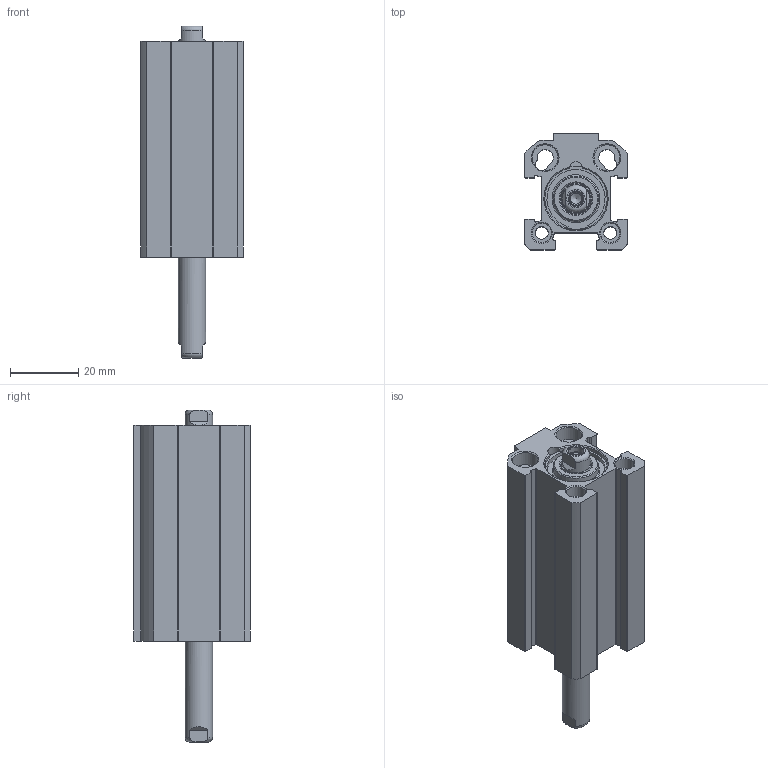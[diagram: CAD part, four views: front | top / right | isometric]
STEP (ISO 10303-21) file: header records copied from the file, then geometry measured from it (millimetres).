
FILE_DESCRIPTION(/* description */ ('Unknown'),/* implementation_level */ '2;1');
FILE_NAME(/* name */ 'FBN 16_25',/* time_stamp */ '2026-04-29T08:54:36+02:00',/* author */ ('Unknown'),/* organization */ ('Unknown'),/* preprocessor_version */ 'ST-DEVELOPER v18.102',/* originating_system */ 'Solid Edge',/* authorisation */ 'Unknown');
FILE_SCHEMA (('AUTOMOTIVE_DESIGN {1 0 10303 214 3 1 1}'));
Length unit declared in the file: millimetre
Products named in the file (5): FBN 16_25; Kolbenstange; Profilrohr; Kit_1; Kit_2
Assembly tree (5 placements, depth 2):
  FBN 16_25
    Kolbenstange  x2
    Profilrohr
    Kit_1
    Kit_2
Bounding box: 30 x 34 x 97 mm (x, y, z)
Volume: 40583.5 mm3; surface area: 24505.3 mm2
Topology: 7 solids, 7 shells, 229 faces, 549 edges, 356 vertices
Faces by surface type: plane 90, cylinder 83, cone 42, torus 14
Full cylindrical faces by diameter (mm): 1.3 x2, 3.242 x4, 3.7 x2, 4.134 x4, 4.25 x2, 5.6 x4, 8 x2, 8.42 x2, 9.2 x2, 11.36 x2, 11.5 x2, 13.2 x2, 16 x3, 17.9 x4, 19 x2
Entity records: 6923 total; most frequent: CARTESIAN_POINT 1107, DIRECTION 1040, ORIENTED_EDGE 818, AXIS2_PLACEMENT_3D 437, EDGE_CURVE 409, FACE_BOUND 327, EDGE_LOOP 326, VERTEX_POINT 308
